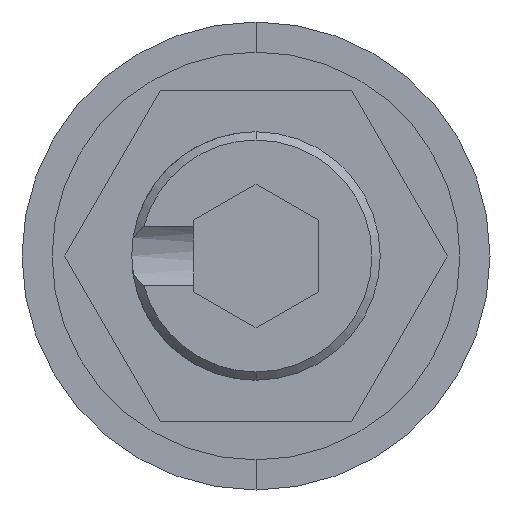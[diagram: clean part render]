
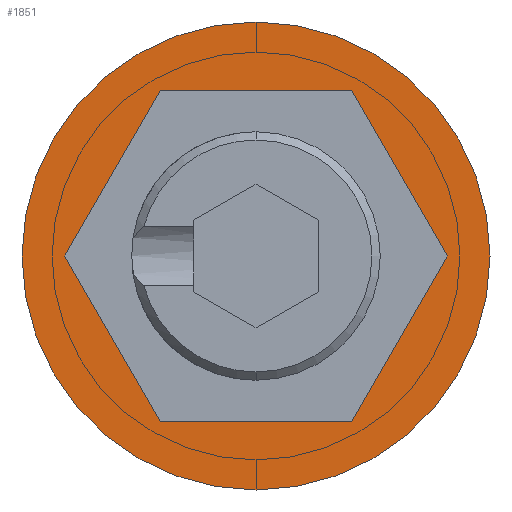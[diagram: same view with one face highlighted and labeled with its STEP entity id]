
A CAD part, front view. The second image highlights one B-rep face of the part: STEP entity #1851.
In plain terms, the highlighted planar face has unit normal (0, -1, 0).
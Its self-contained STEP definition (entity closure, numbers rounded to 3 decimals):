
#53 = VECTOR ( 'NONE', #1412, 1000. ) ;
#63 = LINE ( 'NONE', #1402, #53 ) ;
#77 = VECTOR ( 'NONE', #1329, 1000. ) ;
#79 = LINE ( 'NONE', #1342, #77 ) ;
#138 = CIRCLE ( 'NONE', #1898, 5.65 ) ;
#163 = EDGE_CURVE ( 'NONE', #450, #586, #416, .T. ) ;
#208 = CARTESIAN_POINT ( 'NONE',  ( 4.619, 0., 0. ) ) ;
#352 = DIRECTION ( 'NONE',  ( -0.5, 0., 0.866 ) ) ;
#413 = VECTOR ( 'NONE', #1343, 1000. ) ;
#416 = LINE ( 'NONE', #724, #413 ) ;
#450 = VERTEX_POINT ( 'NONE', #755 ) ;
#531 = VERTEX_POINT ( 'NONE', #880 ) ;
#586 = VERTEX_POINT ( 'NONE', #930 ) ;
#621 = VERTEX_POINT ( 'NONE', #1033 ) ;
#660 = VERTEX_POINT ( 'NONE', #1095 ) ;
#699 = EDGE_CURVE ( 'NONE', #621, #531, #138, .T. ) ;
#724 = CARTESIAN_POINT ( 'NONE',  ( 2.309, 0., -4. ) ) ;
#755 = CARTESIAN_POINT ( 'NONE',  ( 2.309, 0., -4. ) ) ;
#813 = EDGE_CURVE ( 'NONE', #1118, #1157, #79, .T. ) ;
#880 = CARTESIAN_POINT ( 'NONE',  ( 0., 0., -5.65 ) ) ;
#885 = EDGE_CURVE ( 'NONE', #660, #1118, #63, .T. ) ;
#905 = AXIS2_PLACEMENT_3D ( 'NONE', #1521, #1461, #1415 ) ;
#906 = CARTESIAN_POINT ( 'NONE',  ( 2.309, 0., 4. ) ) ;
#930 = CARTESIAN_POINT ( 'NONE',  ( 4.619, 0., 0. ) ) ;
#1033 = CARTESIAN_POINT ( 'NONE',  ( 0., 0., 5.65 ) ) ;
#1063 = FACE_OUTER_BOUND ( 'NONE', #1439, .T. ) ;
#1087 = EDGE_CURVE ( 'NONE', #1624, #660, #2105, .T. ) ;
#1095 = CARTESIAN_POINT ( 'NONE',  ( -2.309, 0., 4. ) ) ;
#1101 = FACE_BOUND ( 'NONE', #1956, .T. ) ;
#1118 = VERTEX_POINT ( 'NONE', #1574 ) ;
#1151 = ORIENTED_EDGE ( 'NONE', *, *, #699, .T. ) ;
#1155 = ORIENTED_EDGE ( 'NONE', *, *, #1458, .T. ) ;
#1157 = VERTEX_POINT ( 'NONE', #1610 ) ;
#1168 = ORIENTED_EDGE ( 'NONE', *, *, #163, .F. ) ;
#1172 = ORIENTED_EDGE ( 'NONE', *, *, #1683, .F. ) ;
#1176 = ORIENTED_EDGE ( 'NONE', *, *, #1087, .F. ) ;
#1181 = ORIENTED_EDGE ( 'NONE', *, *, #885, .F. ) ;
#1182 = CARTESIAN_POINT ( 'NONE',  ( 0., 0., 0. ) ) ;
#1183 = ORIENTED_EDGE ( 'NONE', *, *, #813, .F. ) ;
#1184 = DIRECTION ( 'NONE',  ( 0., -1., 0. ) ) ;
#1191 = ORIENTED_EDGE ( 'NONE', *, *, #1454, .F. ) ;
#1192 = DIRECTION ( 'NONE',  ( 0., 0., -1. ) ) ;
#1312 = PLANE ( 'NONE',  #905 ) ;
#1329 = DIRECTION ( 'NONE',  ( 0.5, 0., -0.866 ) ) ;
#1342 = CARTESIAN_POINT ( 'NONE',  ( -4.619, 0., 0. ) ) ;
#1343 = DIRECTION ( 'NONE',  ( 0.5, 0., 0.866 ) ) ;
#1381 = AXIS2_PLACEMENT_3D ( 'NONE', #1964, #1967, #1968 ) ;
#1402 = CARTESIAN_POINT ( 'NONE',  ( -2.309, 0., 4. ) ) ;
#1412 = DIRECTION ( 'NONE',  ( -0.5, 0., -0.866 ) ) ;
#1415 = DIRECTION ( 'NONE',  ( 0., 0., -1. ) ) ;
#1439 = EDGE_LOOP ( 'NONE', ( #1155, #1151 ) ) ;
#1454 = EDGE_CURVE ( 'NONE', #1157, #450, #1766, .T. ) ;
#1458 = EDGE_CURVE ( 'NONE', #531, #621, #1790, .T. ) ;
#1461 = DIRECTION ( 'NONE',  ( 0., -1., 0. ) ) ;
#1482 = CARTESIAN_POINT ( 'NONE',  ( 2.309, 0., 4. ) ) ;
#1513 = VECTOR ( 'NONE', #352, 1000. ) ;
#1521 = CARTESIAN_POINT ( 'NONE',  ( 0., 0., 0. ) ) ;
#1529 = DIRECTION ( 'NONE',  ( -1., 0., 0. ) ) ;
#1574 = CARTESIAN_POINT ( 'NONE',  ( -4.619, 0., 0. ) ) ;
#1594 = LINE ( 'NONE', #208, #1513 ) ;
#1610 = CARTESIAN_POINT ( 'NONE',  ( -2.309, 0., -4. ) ) ;
#1624 = VERTEX_POINT ( 'NONE', #906 ) ;
#1683 = EDGE_CURVE ( 'NONE', #586, #1624, #1594, .T. ) ;
#1763 = VECTOR ( 'NONE', #1943, 1000. ) ;
#1766 = LINE ( 'NONE', #1934, #1763 ) ;
#1790 = CIRCLE ( 'NONE', #1381, 5.65 ) ;
#1851 = ADVANCED_FACE ( 'NONE', ( #1101, #1063 ), #1312, .T. ) ;
#1898 = AXIS2_PLACEMENT_3D ( 'NONE', #1182, #1184, #1192 ) ;
#1934 = CARTESIAN_POINT ( 'NONE',  ( -2.309, 0., -4. ) ) ;
#1943 = DIRECTION ( 'NONE',  ( 1., 0., 0. ) ) ;
#1956 = EDGE_LOOP ( 'NONE', ( #1191, #1183, #1181, #1176, #1172, #1168 ) ) ;
#1964 = CARTESIAN_POINT ( 'NONE',  ( 0., 0., 0. ) ) ;
#1967 = DIRECTION ( 'NONE',  ( 0., -1., 0. ) ) ;
#1968 = DIRECTION ( 'NONE',  ( 0., 0., -1. ) ) ;
#2103 = VECTOR ( 'NONE', #1529, 1000. ) ;
#2105 = LINE ( 'NONE', #1482, #2103 ) ;
